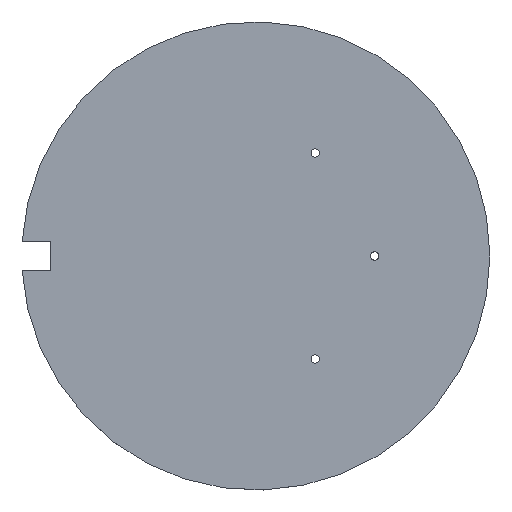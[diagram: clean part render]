
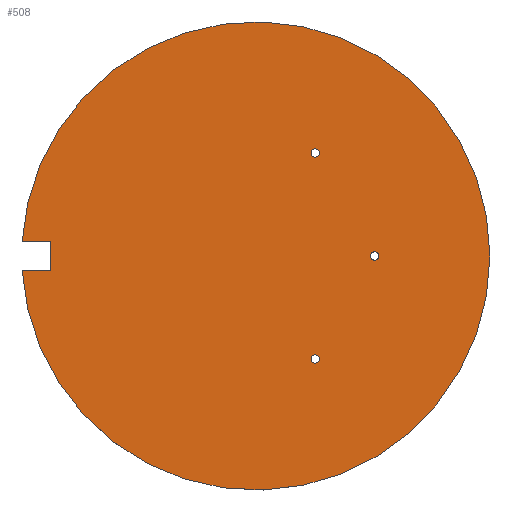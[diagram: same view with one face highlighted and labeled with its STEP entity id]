
A CAD part, top view. The second image highlights one B-rep face of the part: STEP entity #508.
In plain terms, the highlighted planar face has unit normal (0, 0, 1).
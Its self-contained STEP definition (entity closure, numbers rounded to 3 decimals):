
#33 = CYLINDRICAL_SURFACE('',#34,94.5);
#34 = AXIS2_PLACEMENT_3D('',#35,#36,#37);
#35 = CARTESIAN_POINT('',(0.,0.,0.));
#36 = DIRECTION('',(-0.,-0.,-1.));
#37 = DIRECTION('',(1.,0.,0.));
#58 = VERTEX_POINT('',#59);
#59 = CARTESIAN_POINT('',(94.5,0.,3.));
#73 = CYLINDRICAL_SURFACE('',#74,94.5);
#74 = AXIS2_PLACEMENT_3D('',#75,#76,#77);
#75 = CARTESIAN_POINT('',(0.,0.,0.));
#76 = DIRECTION('',(-0.,-0.,-1.));
#77 = DIRECTION('',(1.,0.,0.));
#85 = EDGE_CURVE('',#58,#86,#88,.T.);
#86 = VERTEX_POINT('',#87);
#87 = CARTESIAN_POINT('',(-94.309,6.,3.));
#88 = SURFACE_CURVE('',#89,(#94,#101),.PCURVE_S1.);
#89 = CIRCLE('',#90,94.5);
#90 = AXIS2_PLACEMENT_3D('',#91,#92,#93);
#91 = CARTESIAN_POINT('',(0.,0.,3.));
#92 = DIRECTION('',(0.,0.,1.));
#93 = DIRECTION('',(1.,0.,0.));
#94 = PCURVE('',#33,#95);
#95 = DEFINITIONAL_REPRESENTATION('',(#96),#100);
#96 = LINE('',#97,#98);
#97 = CARTESIAN_POINT('',(-0.,-3.));
#98 = VECTOR('',#99,1.);
#99 = DIRECTION('',(-1.,0.));
#100 = ( GEOMETRIC_REPRESENTATION_CONTEXT(2) 
PARAMETRIC_REPRESENTATION_CONTEXT() REPRESENTATION_CONTEXT('2D SPACE',''
  ) );
#101 = PCURVE('',#102,#107);
#102 = PLANE('',#103);
#103 = AXIS2_PLACEMENT_3D('',#104,#105,#106);
#104 = CARTESIAN_POINT('',(0.,0.,3.));
#105 = DIRECTION('',(0.,0.,1.));
#106 = DIRECTION('',(1.,0.,-0.));
#107 = DEFINITIONAL_REPRESENTATION('',(#108),#112);
#108 = CIRCLE('',#109,94.5);
#109 = AXIS2_PLACEMENT_2D('',#110,#111);
#110 = CARTESIAN_POINT('',(0.,0.));
#111 = DIRECTION('',(1.,0.));
#112 = ( GEOMETRIC_REPRESENTATION_CONTEXT(2) 
PARAMETRIC_REPRESENTATION_CONTEXT() REPRESENTATION_CONTEXT('2D SPACE',''
  ) );
#127 = PLANE('',#128);
#128 = AXIS2_PLACEMENT_3D('',#129,#130,#131);
#129 = CARTESIAN_POINT('',(-82.9,6.,0.));
#130 = DIRECTION('',(0.,-1.,0.));
#131 = DIRECTION('',(-1.,0.,0.));
#205 = PLANE('',#206);
#206 = AXIS2_PLACEMENT_3D('',#207,#208,#209);
#207 = CARTESIAN_POINT('',(-82.9,-6.,0.));
#208 = DIRECTION('',(-1.,0.,0.));
#209 = DIRECTION('',(0.,1.,0.));
#231 = PLANE('',#232);
#232 = AXIS2_PLACEMENT_3D('',#233,#234,#235);
#233 = CARTESIAN_POINT('',(-96.9,-6.,0.));
#234 = DIRECTION('',(0.,1.,0.));
#235 = DIRECTION('',(1.,0.,0.));
#465 = VERTEX_POINT('',#466);
#466 = CARTESIAN_POINT('',(-82.9,6.,3.));
#487 = EDGE_CURVE('',#465,#86,#488,.T.);
#488 = SURFACE_CURVE('',#489,(#493,#500),.PCURVE_S1.);
#489 = LINE('',#490,#491);
#490 = CARTESIAN_POINT('',(-82.9,6.,3.));
#491 = VECTOR('',#492,1.);
#492 = DIRECTION('',(-1.,0.,0.));
#493 = PCURVE('',#127,#494);
#494 = DEFINITIONAL_REPRESENTATION('',(#495),#499);
#495 = LINE('',#496,#497);
#496 = CARTESIAN_POINT('',(0.,-3.));
#497 = VECTOR('',#498,1.);
#498 = DIRECTION('',(1.,0.));
#499 = ( GEOMETRIC_REPRESENTATION_CONTEXT(2) 
PARAMETRIC_REPRESENTATION_CONTEXT() REPRESENTATION_CONTEXT('2D SPACE',''
  ) );
#500 = PCURVE('',#102,#501);
#501 = DEFINITIONAL_REPRESENTATION('',(#502),#506);
#502 = LINE('',#503,#504);
#503 = CARTESIAN_POINT('',(-82.9,6.));
#504 = VECTOR('',#505,1.);
#505 = DIRECTION('',(-1.,0.));
#506 = ( GEOMETRIC_REPRESENTATION_CONTEXT(2) 
PARAMETRIC_REPRESENTATION_CONTEXT() REPRESENTATION_CONTEXT('2D SPACE',''
  ) );
#508 = ADVANCED_FACE('',(#509,#581,#612,#643),#102,.T.);
#509 = FACE_BOUND('',#510,.T.);
#510 = EDGE_LOOP('',(#511,#535,#536,#537,#560));
#511 = ORIENTED_EDGE('',*,*,#512,.T.);
#512 = EDGE_CURVE('',#513,#58,#515,.T.);
#513 = VERTEX_POINT('',#514);
#514 = CARTESIAN_POINT('',(-94.309,-6.,3.));
#515 = SURFACE_CURVE('',#516,(#521,#528),.PCURVE_S1.);
#516 = CIRCLE('',#517,94.5);
#517 = AXIS2_PLACEMENT_3D('',#518,#519,#520);
#518 = CARTESIAN_POINT('',(0.,0.,3.));
#519 = DIRECTION('',(0.,0.,1.));
#520 = DIRECTION('',(1.,0.,0.));
#521 = PCURVE('',#102,#522);
#522 = DEFINITIONAL_REPRESENTATION('',(#523),#527);
#523 = CIRCLE('',#524,94.5);
#524 = AXIS2_PLACEMENT_2D('',#525,#526);
#525 = CARTESIAN_POINT('',(0.,0.));
#526 = DIRECTION('',(1.,0.));
#527 = ( GEOMETRIC_REPRESENTATION_CONTEXT(2) 
PARAMETRIC_REPRESENTATION_CONTEXT() REPRESENTATION_CONTEXT('2D SPACE',''
  ) );
#528 = PCURVE('',#73,#529);
#529 = DEFINITIONAL_REPRESENTATION('',(#530),#534);
#530 = LINE('',#531,#532);
#531 = CARTESIAN_POINT('',(-0.,-3.));
#532 = VECTOR('',#533,1.);
#533 = DIRECTION('',(-1.,0.));
#534 = ( GEOMETRIC_REPRESENTATION_CONTEXT(2) 
PARAMETRIC_REPRESENTATION_CONTEXT() REPRESENTATION_CONTEXT('2D SPACE',''
  ) );
#535 = ORIENTED_EDGE('',*,*,#85,.T.);
#536 = ORIENTED_EDGE('',*,*,#487,.F.);
#537 = ORIENTED_EDGE('',*,*,#538,.F.);
#538 = EDGE_CURVE('',#539,#465,#541,.T.);
#539 = VERTEX_POINT('',#540);
#540 = CARTESIAN_POINT('',(-82.9,-6.,3.));
#541 = SURFACE_CURVE('',#542,(#546,#553),.PCURVE_S1.);
#542 = LINE('',#543,#544);
#543 = CARTESIAN_POINT('',(-82.9,-6.,3.));
#544 = VECTOR('',#545,1.);
#545 = DIRECTION('',(0.,1.,0.));
#546 = PCURVE('',#102,#547);
#547 = DEFINITIONAL_REPRESENTATION('',(#548),#552);
#548 = LINE('',#549,#550);
#549 = CARTESIAN_POINT('',(-82.9,-6.));
#550 = VECTOR('',#551,1.);
#551 = DIRECTION('',(0.,1.));
#552 = ( GEOMETRIC_REPRESENTATION_CONTEXT(2) 
PARAMETRIC_REPRESENTATION_CONTEXT() REPRESENTATION_CONTEXT('2D SPACE',''
  ) );
#553 = PCURVE('',#205,#554);
#554 = DEFINITIONAL_REPRESENTATION('',(#555),#559);
#555 = LINE('',#556,#557);
#556 = CARTESIAN_POINT('',(0.,-3.));
#557 = VECTOR('',#558,1.);
#558 = DIRECTION('',(1.,0.));
#559 = ( GEOMETRIC_REPRESENTATION_CONTEXT(2) 
PARAMETRIC_REPRESENTATION_CONTEXT() REPRESENTATION_CONTEXT('2D SPACE',''
  ) );
#560 = ORIENTED_EDGE('',*,*,#561,.F.);
#561 = EDGE_CURVE('',#513,#539,#562,.T.);
#562 = SURFACE_CURVE('',#563,(#567,#574),.PCURVE_S1.);
#563 = LINE('',#564,#565);
#564 = CARTESIAN_POINT('',(-96.9,-6.,3.));
#565 = VECTOR('',#566,1.);
#566 = DIRECTION('',(1.,0.,0.));
#567 = PCURVE('',#102,#568);
#568 = DEFINITIONAL_REPRESENTATION('',(#569),#573);
#569 = LINE('',#570,#571);
#570 = CARTESIAN_POINT('',(-96.9,-6.));
#571 = VECTOR('',#572,1.);
#572 = DIRECTION('',(1.,0.));
#573 = ( GEOMETRIC_REPRESENTATION_CONTEXT(2) 
PARAMETRIC_REPRESENTATION_CONTEXT() REPRESENTATION_CONTEXT('2D SPACE',''
  ) );
#574 = PCURVE('',#231,#575);
#575 = DEFINITIONAL_REPRESENTATION('',(#576),#580);
#576 = LINE('',#577,#578);
#577 = CARTESIAN_POINT('',(0.,-3.));
#578 = VECTOR('',#579,1.);
#579 = DIRECTION('',(1.,0.));
#580 = ( GEOMETRIC_REPRESENTATION_CONTEXT(2) 
PARAMETRIC_REPRESENTATION_CONTEXT() REPRESENTATION_CONTEXT('2D SPACE',''
  ) );
#581 = FACE_BOUND('',#582,.T.);
#582 = EDGE_LOOP('',(#583));
#583 = ORIENTED_EDGE('',*,*,#584,.F.);
#584 = EDGE_CURVE('',#585,#585,#587,.T.);
#585 = VERTEX_POINT('',#586);
#586 = CARTESIAN_POINT('',(25.7,-41.569,3.));
#587 = SURFACE_CURVE('',#588,(#593,#600),.PCURVE_S1.);
#588 = CIRCLE('',#589,1.7);
#589 = AXIS2_PLACEMENT_3D('',#590,#591,#592);
#590 = CARTESIAN_POINT('',(24.,-41.569,3.));
#591 = DIRECTION('',(0.,0.,1.));
#592 = DIRECTION('',(1.,0.,0.));
#593 = PCURVE('',#102,#594);
#594 = DEFINITIONAL_REPRESENTATION('',(#595),#599);
#595 = CIRCLE('',#596,1.7);
#596 = AXIS2_PLACEMENT_2D('',#597,#598);
#597 = CARTESIAN_POINT('',(24.,-41.569));
#598 = DIRECTION('',(1.,0.));
#599 = ( GEOMETRIC_REPRESENTATION_CONTEXT(2) 
PARAMETRIC_REPRESENTATION_CONTEXT() REPRESENTATION_CONTEXT('2D SPACE',''
  ) );
#600 = PCURVE('',#601,#606);
#601 = CYLINDRICAL_SURFACE('',#602,1.7);
#602 = AXIS2_PLACEMENT_3D('',#603,#604,#605);
#603 = CARTESIAN_POINT('',(24.,-41.569,0.));
#604 = DIRECTION('',(-0.,-0.,-1.));
#605 = DIRECTION('',(1.,0.,0.));
#606 = DEFINITIONAL_REPRESENTATION('',(#607),#611);
#607 = LINE('',#608,#609);
#608 = CARTESIAN_POINT('',(-0.,-3.));
#609 = VECTOR('',#610,1.);
#610 = DIRECTION('',(-1.,0.));
#611 = ( GEOMETRIC_REPRESENTATION_CONTEXT(2) 
PARAMETRIC_REPRESENTATION_CONTEXT() REPRESENTATION_CONTEXT('2D SPACE',''
  ) );
#612 = FACE_BOUND('',#613,.T.);
#613 = EDGE_LOOP('',(#614));
#614 = ORIENTED_EDGE('',*,*,#615,.F.);
#615 = EDGE_CURVE('',#616,#616,#618,.T.);
#616 = VERTEX_POINT('',#617);
#617 = CARTESIAN_POINT('',(25.7,41.569,3.));
#618 = SURFACE_CURVE('',#619,(#624,#631),.PCURVE_S1.);
#619 = CIRCLE('',#620,1.7);
#620 = AXIS2_PLACEMENT_3D('',#621,#622,#623);
#621 = CARTESIAN_POINT('',(24.,41.569,3.));
#622 = DIRECTION('',(0.,0.,1.));
#623 = DIRECTION('',(1.,0.,0.));
#624 = PCURVE('',#102,#625);
#625 = DEFINITIONAL_REPRESENTATION('',(#626),#630);
#626 = CIRCLE('',#627,1.7);
#627 = AXIS2_PLACEMENT_2D('',#628,#629);
#628 = CARTESIAN_POINT('',(24.,41.569));
#629 = DIRECTION('',(1.,0.));
#630 = ( GEOMETRIC_REPRESENTATION_CONTEXT(2) 
PARAMETRIC_REPRESENTATION_CONTEXT() REPRESENTATION_CONTEXT('2D SPACE',''
  ) );
#631 = PCURVE('',#632,#637);
#632 = CYLINDRICAL_SURFACE('',#633,1.7);
#633 = AXIS2_PLACEMENT_3D('',#634,#635,#636);
#634 = CARTESIAN_POINT('',(24.,41.569,0.));
#635 = DIRECTION('',(-0.,-0.,-1.));
#636 = DIRECTION('',(1.,0.,0.));
#637 = DEFINITIONAL_REPRESENTATION('',(#638),#642);
#638 = LINE('',#639,#640);
#639 = CARTESIAN_POINT('',(-0.,-3.));
#640 = VECTOR('',#641,1.);
#641 = DIRECTION('',(-1.,0.));
#642 = ( GEOMETRIC_REPRESENTATION_CONTEXT(2) 
PARAMETRIC_REPRESENTATION_CONTEXT() REPRESENTATION_CONTEXT('2D SPACE',''
  ) );
#643 = FACE_BOUND('',#644,.T.);
#644 = EDGE_LOOP('',(#645));
#645 = ORIENTED_EDGE('',*,*,#646,.F.);
#646 = EDGE_CURVE('',#647,#647,#649,.T.);
#647 = VERTEX_POINT('',#648);
#648 = CARTESIAN_POINT('',(49.7,0.,3.));
#649 = SURFACE_CURVE('',#650,(#655,#662),.PCURVE_S1.);
#650 = CIRCLE('',#651,1.7);
#651 = AXIS2_PLACEMENT_3D('',#652,#653,#654);
#652 = CARTESIAN_POINT('',(48.,0.,3.));
#653 = DIRECTION('',(0.,0.,1.));
#654 = DIRECTION('',(1.,0.,0.));
#655 = PCURVE('',#102,#656);
#656 = DEFINITIONAL_REPRESENTATION('',(#657),#661);
#657 = CIRCLE('',#658,1.7);
#658 = AXIS2_PLACEMENT_2D('',#659,#660);
#659 = CARTESIAN_POINT('',(48.,0.));
#660 = DIRECTION('',(1.,0.));
#661 = ( GEOMETRIC_REPRESENTATION_CONTEXT(2) 
PARAMETRIC_REPRESENTATION_CONTEXT() REPRESENTATION_CONTEXT('2D SPACE',''
  ) );
#662 = PCURVE('',#663,#668);
#663 = CYLINDRICAL_SURFACE('',#664,1.7);
#664 = AXIS2_PLACEMENT_3D('',#665,#666,#667);
#665 = CARTESIAN_POINT('',(48.,0.,0.));
#666 = DIRECTION('',(-0.,-0.,-1.));
#667 = DIRECTION('',(1.,0.,0.));
#668 = DEFINITIONAL_REPRESENTATION('',(#669),#673);
#669 = LINE('',#670,#671);
#670 = CARTESIAN_POINT('',(-0.,-3.));
#671 = VECTOR('',#672,1.);
#672 = DIRECTION('',(-1.,0.));
#673 = ( GEOMETRIC_REPRESENTATION_CONTEXT(2) 
PARAMETRIC_REPRESENTATION_CONTEXT() REPRESENTATION_CONTEXT('2D SPACE',''
  ) );
